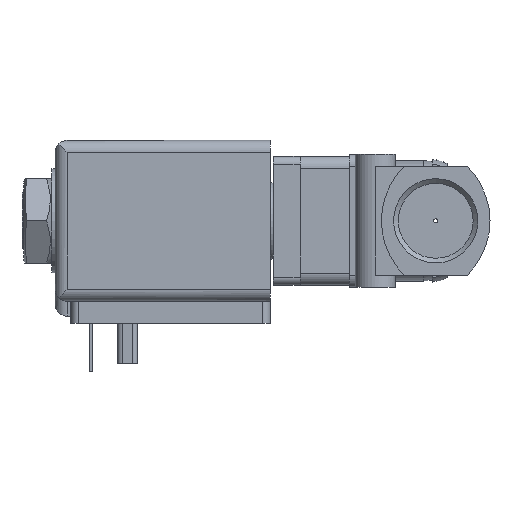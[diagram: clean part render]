
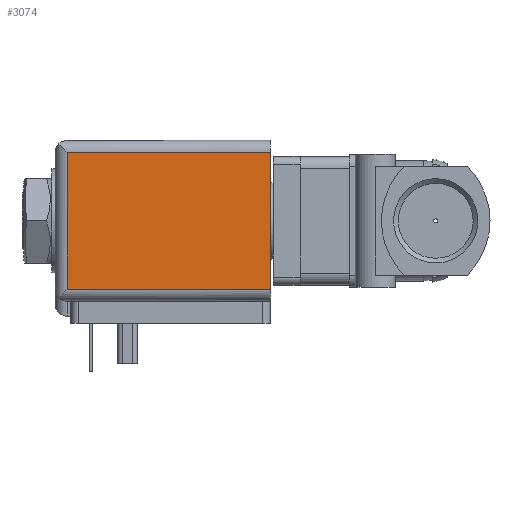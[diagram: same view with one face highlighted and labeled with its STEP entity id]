
A CAD part, left-side view. The second image highlights one B-rep face of the part: STEP entity #3074.
In plain terms, the highlighted planar face has unit normal (-1, 0, 0).
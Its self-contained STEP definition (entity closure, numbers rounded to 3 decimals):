
#334=LINE('',#5706,#592);
#335=LINE('',#5709,#593);
#336=LINE('',#5711,#594);
#337=LINE('',#5713,#595);
#592=VECTOR('',#4697,1000.);
#593=VECTOR('',#4698,1000.);
#594=VECTOR('',#4699,1000.);
#595=VECTOR('',#4700,1000.);
#1272=ORIENTED_EDGE('',*,*,#1886,.T.);
#1273=ORIENTED_EDGE('',*,*,#1887,.T.);
#1274=ORIENTED_EDGE('',*,*,#1888,.T.);
#1275=ORIENTED_EDGE('',*,*,#1889,.F.);
#1886=EDGE_CURVE('',#2234,#2235,#334,.T.);
#1887=EDGE_CURVE('',#2235,#2236,#335,.T.);
#1888=EDGE_CURVE('',#2236,#2237,#336,.T.);
#1889=EDGE_CURVE('',#2234,#2237,#337,.T.);
#2234=VERTEX_POINT('',#5707);
#2235=VERTEX_POINT('',#5708);
#2236=VERTEX_POINT('',#5710);
#2237=VERTEX_POINT('',#5712);
#2569=EDGE_LOOP('',(#1272,#1273,#1274,#1275));
#2777=FACE_BOUND('',#2569,.T.);
#2920=PLANE('',#3922);
#3074=ADVANCED_FACE('',(#2777),#2920,.F.);
#3922=AXIS2_PLACEMENT_3D('',#5705,#4695,#4696);
#4695=DIRECTION('',(1.,0.,0.));
#4696=DIRECTION('',(0.,0.,-1.));
#4697=DIRECTION('',(0.,0.,-1.));
#4698=DIRECTION('',(0.,-1.,0.));
#4699=DIRECTION('',(0.,0.,1.));
#4700=DIRECTION('',(0.,-1.,0.));
#5705=CARTESIAN_POINT('',(-20.,53.5,-17.));
#5706=CARTESIAN_POINT('',(-20.,50.5,20.));
#5707=CARTESIAN_POINT('',(-20.,50.5,17.));
#5708=CARTESIAN_POINT('',(-20.,50.5,-17.));
#5709=CARTESIAN_POINT('',(-20.,53.5,-17.));
#5710=CARTESIAN_POINT('',(-20.,0.,-17.));
#5711=CARTESIAN_POINT('',(-20.,0.,-17.));
#5712=CARTESIAN_POINT('',(-20.,0.,17.));
#5713=CARTESIAN_POINT('',(-20.,53.5,17.));
